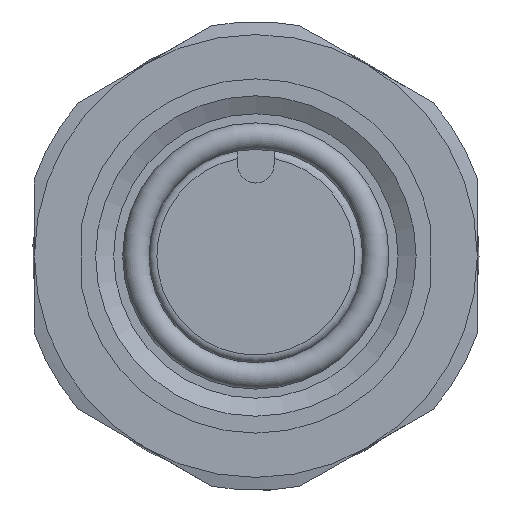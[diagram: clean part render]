
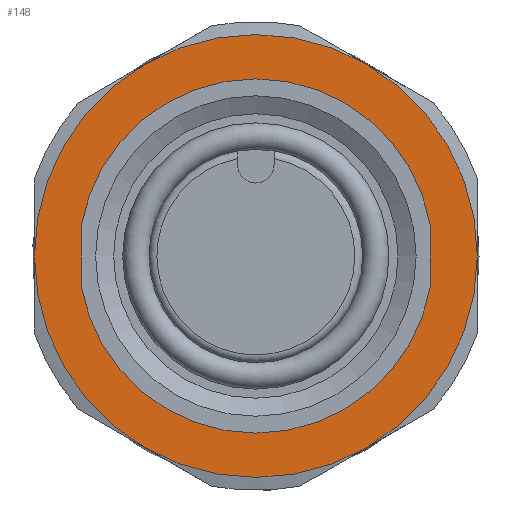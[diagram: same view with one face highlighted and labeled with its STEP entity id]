
A CAD part, left-side view. The second image highlights one B-rep face of the part: STEP entity #148.
In plain terms, the highlighted planar face has unit normal (-1, 0, 0).
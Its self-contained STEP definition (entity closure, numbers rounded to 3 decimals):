
#148 = ADVANCED_FACE( '', ( #342, #343 ), #344, .F. );
#342 = FACE_OUTER_BOUND( '', #571, .T. );
#343 = FACE_BOUND( '', #572, .T. );
#344 = PLANE( '', #573 );
#571 = EDGE_LOOP( '', ( #1185, #1186, #1187, #1188, #1189, #1190 ) );
#572 = EDGE_LOOP( '', ( #1191, #1192, #1193, #1194 ) );
#573 = AXIS2_PLACEMENT_3D( '', #1195, #1196, #1197 );
#1185 = ORIENTED_EDGE( '', *, *, #1391, .F. );
#1186 = ORIENTED_EDGE( '', *, *, #1387, .F. );
#1187 = ORIENTED_EDGE( '', *, *, #1554, .F. );
#1188 = ORIENTED_EDGE( '', *, *, #1415, .F. );
#1189 = ORIENTED_EDGE( '', *, *, #1408, .F. );
#1190 = ORIENTED_EDGE( '', *, *, #1385, .F. );
#1191 = ORIENTED_EDGE( '', *, *, #1537, .T. );
#1192 = ORIENTED_EDGE( '', *, *, #1534, .T. );
#1193 = ORIENTED_EDGE( '', *, *, #1530, .T. );
#1194 = ORIENTED_EDGE( '', *, *, #1546, .T. );
#1195 = CARTESIAN_POINT( '', ( 8., 0., 0. ) );
#1196 = DIRECTION( '', ( 1., 0., 0. ) );
#1197 = DIRECTION( '', ( 0., 0., -1. ) );
#1385 = EDGE_CURVE( '', #1622, #1624, #1625, .T. );
#1387 = EDGE_CURVE( '', #1627, #1628, #1629, .T. );
#1391 = EDGE_CURVE( '', #1628, #1622, #1635, .T. );
#1408 = EDGE_CURVE( '', #1624, #1666, #1667, .T. );
#1415 = EDGE_CURVE( '', #1666, #1678, #1679, .T. );
#1530 = EDGE_CURVE( '', #1865, #1866, #1867, .T. );
#1534 = EDGE_CURVE( '', #1873, #1865, #1874, .T. );
#1537 = EDGE_CURVE( '', #1878, #1873, #1879, .T. );
#1546 = EDGE_CURVE( '', #1866, #1878, #1893, .T. );
#1554 = EDGE_CURVE( '', #1678, #1627, #1904, .T. );
#1622 = VERTEX_POINT( '', #2152 );
#1624 = VERTEX_POINT( '', #2157 );
#1625 = CIRCLE( '', #2158, 8.5 );
#1627 = VERTEX_POINT( '', #2163 );
#1628 = VERTEX_POINT( '', #2164 );
#1629 = CIRCLE( '', #2165, 8.5 );
#1635 = CIRCLE( '', #2177, 8.5 );
#1666 = VERTEX_POINT( '', #2218 );
#1667 = CIRCLE( '', #2219, 8.5 );
#1678 = VERTEX_POINT( '', #2238 );
#1679 = CIRCLE( '', #2239, 8.5 );
#1865 = VERTEX_POINT( '', #2579 );
#1866 = VERTEX_POINT( '', #2580 );
#1867 = CIRCLE( '', #2581, 6.8 );
#1873 = VERTEX_POINT( '', #2589 );
#1874 = LINE( '', #2590, #2591 );
#1878 = VERTEX_POINT( '', #2597 );
#1879 = CIRCLE( '', #2598, 6.8 );
#1893 = LINE( '', #2619, #2620 );
#1904 = CIRCLE( '', #2635, 8.5 );
#2152 = CARTESIAN_POINT( '', ( 8., 4.25, 7.361 ) );
#2157 = CARTESIAN_POINT( '', ( 8., -4.25, 7.361 ) );
#2158 = AXIS2_PLACEMENT_3D( '', #2703, #2704, #2705 );
#2163 = CARTESIAN_POINT( '', ( 8., 4.25, -7.361 ) );
#2164 = CARTESIAN_POINT( '', ( 8., 8.5, 0. ) );
#2165 = AXIS2_PLACEMENT_3D( '', #2706, #2707, #2708 );
#2177 = AXIS2_PLACEMENT_3D( '', #2712, #2713, #2714 );
#2218 = CARTESIAN_POINT( '', ( 8., -8.5, 0. ) );
#2219 = AXIS2_PLACEMENT_3D( '', #2749, #2750, #2751 );
#2238 = CARTESIAN_POINT( '', ( 8., -4.25, -7.361 ) );
#2239 = AXIS2_PLACEMENT_3D( '', #2760, #2761, #2762 );
#2579 = CARTESIAN_POINT( '', ( 8., -6.7, -1.162 ) );
#2580 = CARTESIAN_POINT( '', ( 8., 6.7, -1.162 ) );
#2581 = AXIS2_PLACEMENT_3D( '', #2921, #2922, #2923 );
#2589 = CARTESIAN_POINT( '', ( 8., -6.7, 1.162 ) );
#2590 = CARTESIAN_POINT( '', ( 8., -6.7, 13. ) );
#2591 = VECTOR( '', #2929, 1000. );
#2597 = CARTESIAN_POINT( '', ( 8., 6.7, 1.162 ) );
#2598 = AXIS2_PLACEMENT_3D( '', #2932, #2933, #2934 );
#2619 = CARTESIAN_POINT( '', ( 8., 6.7, -13. ) );
#2620 = VECTOR( '', #2945, 1000. );
#2635 = AXIS2_PLACEMENT_3D( '', #2959, #2960, #2961 );
#2703 = CARTESIAN_POINT( '', ( 8., 0., 0. ) );
#2704 = DIRECTION( '', ( 1., 0., 0. ) );
#2705 = DIRECTION( '', ( 0., 0., -1. ) );
#2706 = CARTESIAN_POINT( '', ( 8., 0., 0. ) );
#2707 = DIRECTION( '', ( 1., 0., 0. ) );
#2708 = DIRECTION( '', ( 0., 0., -1. ) );
#2712 = CARTESIAN_POINT( '', ( 8., 0., 0. ) );
#2713 = DIRECTION( '', ( 1., 0., 0. ) );
#2714 = DIRECTION( '', ( 0., 0., -1. ) );
#2749 = CARTESIAN_POINT( '', ( 8., 0., 0. ) );
#2750 = DIRECTION( '', ( 1., 0., 0. ) );
#2751 = DIRECTION( '', ( 0., 0., -1. ) );
#2760 = CARTESIAN_POINT( '', ( 8., 0., 0. ) );
#2761 = DIRECTION( '', ( 1., 0., 0. ) );
#2762 = DIRECTION( '', ( 0., 0., -1. ) );
#2921 = CARTESIAN_POINT( '', ( 8., 0., 0. ) );
#2922 = DIRECTION( '', ( 1., 0., 0. ) );
#2923 = DIRECTION( '', ( 0., 0., -1. ) );
#2929 = DIRECTION( '', ( 0., 0., -1. ) );
#2932 = CARTESIAN_POINT( '', ( 8., 0., 0. ) );
#2933 = DIRECTION( '', ( 1., 0., 0. ) );
#2934 = DIRECTION( '', ( 0., 0., -1. ) );
#2945 = DIRECTION( '', ( 0., 0., 1. ) );
#2959 = CARTESIAN_POINT( '', ( 8., 0., 0. ) );
#2960 = DIRECTION( '', ( 1., 0., 0. ) );
#2961 = DIRECTION( '', ( 0., 0., -1. ) );
